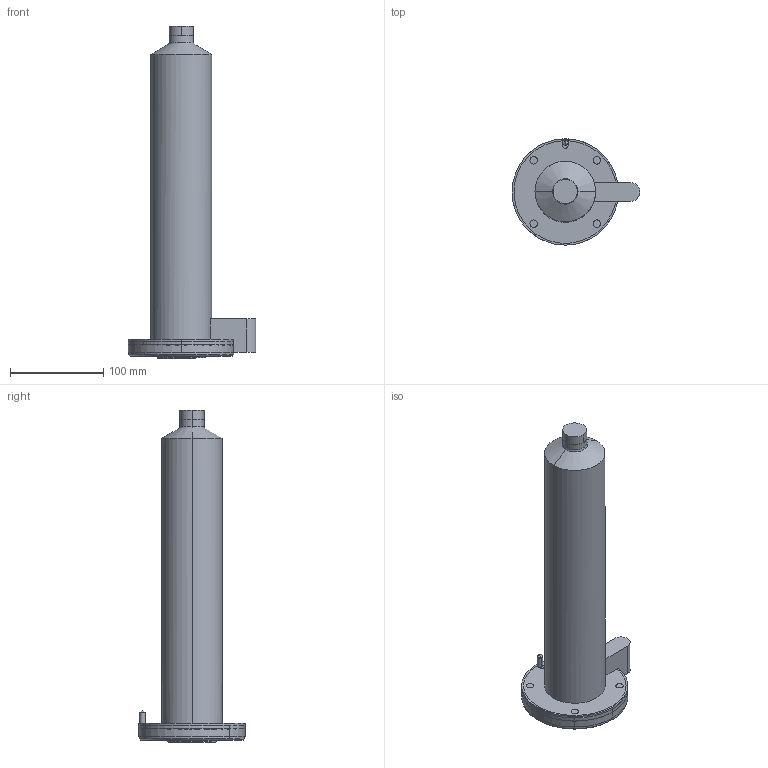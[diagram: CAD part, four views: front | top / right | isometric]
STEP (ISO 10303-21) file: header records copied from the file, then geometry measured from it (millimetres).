
FILE_DESCRIPTION (( 'STEP AP214' ), '1' );
FILE_NAME ('SR20_CLOSED_350_HELICAL.STEP', '2009-05-07T15:55:25', ( 'Synventive Molding Solutions' ), ( 'Synventive Molding Solutions' ), 'SwSTEP 2.0', 'SolidWorks 2008', '' );
FILE_SCHEMA (( 'AUTOMOTIVE_DESIGN' ));
Length unit declared in the file: millimetre
Products named in the file (1): SR20_CLOSED_350_HELICAL
Bounding box: 137 x 114 x 356 mm (x, y, z)
Volume: 1936096.3 mm3; surface area: 189578.1 mm2
Topology: 2 solids, 2 shells, 253 faces, 675 edges, 433 vertices
Faces by surface type: cylinder 105, plane 68, bspline 35, cone 29, torus 16
Entity records: 20617 total; most frequent: CARTESIAN_POINT 11833, ORIENTED_EDGE 1346, DIRECTION 1161, EDGE_CURVE 673, AXIS2_PLACEMENT_3D 449, VERTEX_POINT 433, EDGE_LOOP 278, VECTOR 263
